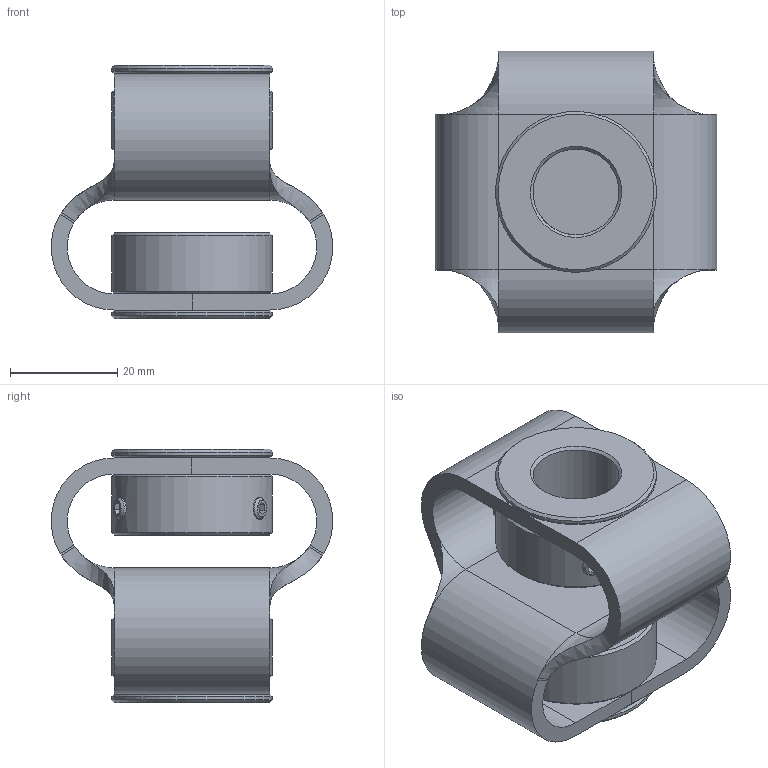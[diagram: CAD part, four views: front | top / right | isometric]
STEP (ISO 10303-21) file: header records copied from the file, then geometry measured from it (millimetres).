
FILE_DESCRIPTION(/* description */ ('Stern'),/* implementation_level */ '2;1');
FILE_NAME(/* name */ 'Z:\ABP-Antriebstechnik\Entwicklung-3D\Paguflex\DKPSX5658\DKPSX5658 16 19.stp',/* time_stamp */ '2021-06-21T12:08:36+02:00',/* author */ ('christian.fehrenbach'),/* organization */ (''),/* preprocessor_version */ 'ST-DEVELOPER v16.1',/* originating_system */ 'Autodesk Inventor 2016',/* authorisation */ '');
FILE_SCHEMA (('AUTOMOTIVE_DESIGN { 1 0 10303 214 3 1 1 }','AP242_MANAGED_MODEL_BASED_3D_ENGINEERING_MIM_LF { 1 0 10303 442 1 1 4 }'));
Length unit declared in the file: millimetre
Products named in the file (5): DKPS 5658 Stern gebogen; Schraubnabe 2915 19; Schraubnabe 2915 16; DIN 916 - M4  x  6; DKPSX5658 16 19
Assembly tree (7 placements, depth 2):
  DKPSX5658 16 19
    DKPS 5658 Stern gebogen
    Schraubnabe 2915 19
    Schraubnabe 2915 16
    DIN 916 - M4  x  6  x4
Bounding box: 52.48 x 52.48 x 47.2 mm (x, y, z)
Volume: 29457 mm3; surface area: 20864 mm2
Topology: 7 solids, 11 shells, 158 faces, 342 edges, 194 vertices
Faces by surface type: plane 82, cylinder 28, cone 28, bspline 12, torus 8
Full cylindrical faces by diameter (mm): 4 x4, 4.134 x4, 16 x1, 19 x1, 22 x2, 30 x4
Entity records: 3371 total; most frequent: CARTESIAN_POINT 1120, DIRECTION 442, ORIENTED_EDGE 408, EDGE_CURVE 196, AXIS2_PLACEMENT_3D 182, EDGE_LOOP 148, VERTEX_POINT 128, FACE_OUTER_BOUND 104
